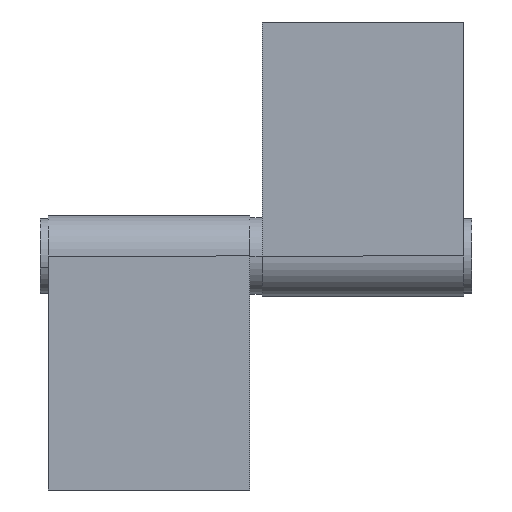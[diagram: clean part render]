
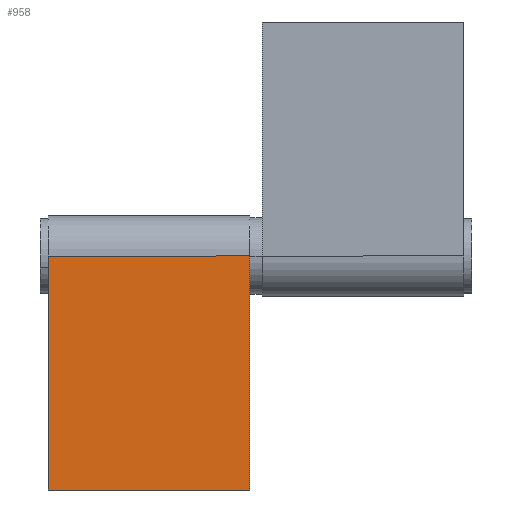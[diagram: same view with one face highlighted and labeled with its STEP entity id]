
A CAD part, left-side view. The second image highlights one B-rep face of the part: STEP entity #958.
In plain terms, the highlighted planar face has unit normal (-1, 0, 0) as drawn and (0, 0, 1) by its records, which use the part's own axes.
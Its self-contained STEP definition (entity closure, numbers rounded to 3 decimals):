
#7 = CARTESIAN_POINT ( 'NONE',  ( 58., 50., 10. ) ) ;
#105 = FACE_OUTER_BOUND ( 'NONE', #943, .T. ) ;
#106 = PLANE ( 'NONE',  #107 ) ;
#107 = AXIS2_PLACEMENT_3D ( 'NONE', #108, #109, #110 ) ;
#108 = CARTESIAN_POINT ( 'NONE',  ( 0., 50., 10. ) ) ;
#109 = DIRECTION ( 'NONE',  ( 0., 0., -1. ) ) ;
#110 = DIRECTION ( 'NONE',  ( -1., 0., 0. ) ) ;
#126 = LINE ( 'NONE', #127, #128 ) ;
#127 = CARTESIAN_POINT ( 'NONE',  ( 0., 50., 10. ) ) ;
#128 = VECTOR ( 'NONE', #129, 1000. ) ;
#129 = DIRECTION ( 'NONE',  ( 0., 1., 0. ) ) ;
#138 = LINE ( 'NONE', #139, #140 ) ;
#139 = CARTESIAN_POINT ( 'NONE',  ( 58., 50., 10. ) ) ;
#140 = VECTOR ( 'NONE', #141, 1000. ) ;
#141 = DIRECTION ( 'NONE',  ( 0., -1., 0. ) ) ;
#205 = LINE ( 'NONE', #206, #207 ) ;
#206 = CARTESIAN_POINT ( 'NONE',  ( 0., 0., 10. ) ) ;
#207 = VECTOR ( 'NONE', #208, 1000. ) ;
#208 = DIRECTION ( 'NONE',  ( -1., 0., 0. ) ) ;
#270 = CARTESIAN_POINT ( 'NONE',  ( 58., 0., 10. ) ) ;
#396 = ORIENTED_EDGE ( 'NONE', *, *, #766, .F. ) ;
#548 = EDGE_CURVE ( 'NONE', #874, #1002, #126, .T. ) ;
#766 = EDGE_CURVE ( 'NONE', #1049, #874, #205, .T. ) ;
#839 = ORIENTED_EDGE ( 'NONE', *, *, #548, .F. ) ;
#873 = ORIENTED_EDGE ( 'NONE', *, *, #942, .F. ) ;
#874 = VERTEX_POINT ( 'NONE', #1203 ) ;
#893 = EDGE_CURVE ( 'NONE', #1019, #1049, #138, .T. ) ;
#901 = ORIENTED_EDGE ( 'NONE', *, *, #893, .F. ) ;
#942 = EDGE_CURVE ( 'NONE', #1002, #1019, #1198, .T. ) ;
#943 = EDGE_LOOP ( 'NONE', ( #901, #873, #839, #396 ) ) ;
#958 = ADVANCED_FACE ( 'NONE', ( #105 ), #106, .F. ) ;
#1002 = VERTEX_POINT ( 'NONE', #1136 ) ;
#1019 = VERTEX_POINT ( 'NONE', #7 ) ;
#1049 = VERTEX_POINT ( 'NONE', #270 ) ;
#1136 = CARTESIAN_POINT ( 'NONE',  ( 0., 50., 10. ) ) ;
#1198 = LINE ( 'NONE', #1199, #1200 ) ;
#1199 = CARTESIAN_POINT ( 'NONE',  ( 0., 50., 10. ) ) ;
#1200 = VECTOR ( 'NONE', #1201, 1000. ) ;
#1201 = DIRECTION ( 'NONE',  ( 1., 0., 0. ) ) ;
#1203 = CARTESIAN_POINT ( 'NONE',  ( 0., 0., 10. ) ) ;
